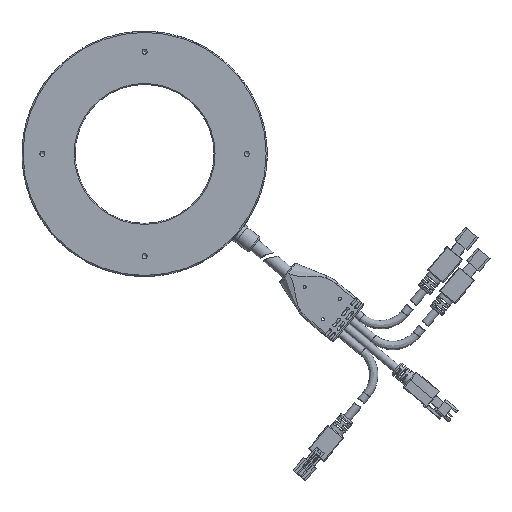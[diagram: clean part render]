
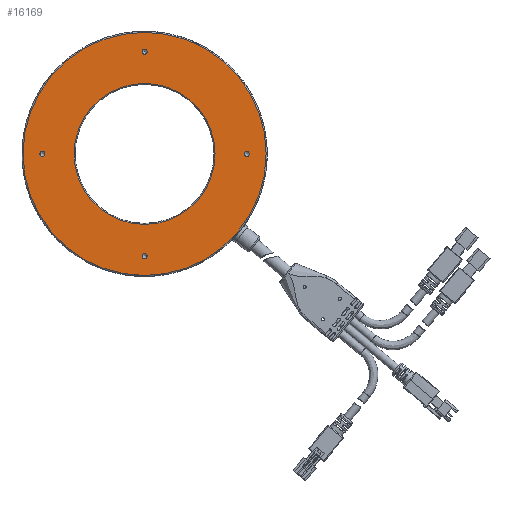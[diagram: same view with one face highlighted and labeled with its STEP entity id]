
A CAD part, front view. The second image highlights one B-rep face of the part: STEP entity #16169.
In plain terms, the highlighted planar face has unit normal (0, -1, 0).
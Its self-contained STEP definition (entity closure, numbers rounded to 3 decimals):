
#727 = DIRECTION ( 'NONE',  ( 0., -1., 0. ) ) ;
#2009 = EDGE_CURVE ( 'NONE', #54985, #54985, #57424, .T. ) ;
#4396 = DIRECTION ( 'NONE',  ( 0., -1., 0. ) ) ;
#4513 = CARTESIAN_POINT ( 'NONE',  ( 0., 0., 48.75 ) ) ;
#5760 = VERTEX_POINT ( 'NONE', #35848 ) ;
#6059 = CARTESIAN_POINT ( 'NONE',  ( 0., 0., -51.25 ) ) ;
#7832 = ORIENTED_EDGE ( 'NONE', *, *, #39731, .F. ) ;
#10649 = EDGE_CURVE ( 'NONE', #5760, #5760, #54673, .T. ) ;
#11118 = DIRECTION ( 'NONE',  ( 0., 0., -1. ) ) ;
#11240 = FACE_BOUND ( 'NONE', #39746, .T. ) ;
#12161 = CIRCLE ( 'NONE', #16451, 59.5 ) ;
#13613 = CIRCLE ( 'NONE', #44081, 1.25 ) ;
#13926 = ORIENTED_EDGE ( 'NONE', *, *, #10649, .T. ) ;
#14412 = DIRECTION ( 'NONE',  ( 0., 1., 0. ) ) ;
#14617 = DIRECTION ( 'NONE',  ( 0., 0., -1. ) ) ;
#16169 = ADVANCED_FACE ( 'NONE', ( #33406, #21596, #36170, #34750, #11240, #56999 ), #30041, .F. ) ;
#16451 = AXIS2_PLACEMENT_3D ( 'NONE', #27200, #727, #31637 ) ;
#18590 = DIRECTION ( 'NONE',  ( 0., -1., 0. ) ) ;
#18694 = EDGE_LOOP ( 'NONE', ( #25745 ) ) ;
#21596 = FACE_OUTER_BOUND ( 'NONE', #27586, .T. ) ;
#22145 = EDGE_LOOP ( 'NONE', ( #49273 ) ) ;
#22378 = EDGE_CURVE ( 'NONE', #31287, #31287, #12161, .T. ) ;
#22414 = ORIENTED_EDGE ( 'NONE', *, *, #2009, .F. ) ;
#23492 = CARTESIAN_POINT ( 'NONE',  ( -50., 0., -1.25 ) ) ;
#25745 = ORIENTED_EDGE ( 'NONE', *, *, #42593, .F. ) ;
#26570 = CARTESIAN_POINT ( 'NONE',  ( 0., 0., 59.5 ) ) ;
#27200 = CARTESIAN_POINT ( 'NONE',  ( 0., 0., 0. ) ) ;
#27586 = EDGE_LOOP ( 'NONE', ( #45742 ) ) ;
#28546 = VERTEX_POINT ( 'NONE', #23492 ) ;
#30041 = PLANE ( 'NONE',  #35197 ) ;
#30314 = AXIS2_PLACEMENT_3D ( 'NONE', #50651, #41681, #11118 ) ;
#31088 = DIRECTION ( 'NONE',  ( 0., 0., -1. ) ) ;
#31287 = VERTEX_POINT ( 'NONE', #26570 ) ;
#31637 = DIRECTION ( 'NONE',  ( 0., 0., 1. ) ) ;
#33406 = FACE_BOUND ( 'NONE', #54791, .T. ) ;
#34443 = CARTESIAN_POINT ( 'NONE',  ( 34., 0., 0. ) ) ;
#34750 = FACE_BOUND ( 'NONE', #22145, .T. ) ;
#34830 = DIRECTION ( 'NONE',  ( 0., 1., 0. ) ) ;
#35197 = AXIS2_PLACEMENT_3D ( 'NONE', #34443, #34830, #40653 ) ;
#35443 = VERTEX_POINT ( 'NONE', #6059 ) ;
#35848 = CARTESIAN_POINT ( 'NONE',  ( 0., 0., 34.5 ) ) ;
#36015 = CARTESIAN_POINT ( 'NONE',  ( 50., 0., 0. ) ) ;
#36107 = DIRECTION ( 'NONE',  ( 0., -1., 0. ) ) ;
#36170 = FACE_BOUND ( 'NONE', #18694, .T. ) ;
#36507 = CARTESIAN_POINT ( 'NONE',  ( 0., 0., -50. ) ) ;
#38713 = CIRCLE ( 'NONE', #51560, 1.25 ) ;
#39731 = EDGE_CURVE ( 'NONE', #54921, #54921, #43066, .T. ) ;
#39746 = EDGE_LOOP ( 'NONE', ( #22414 ) ) ;
#39762 = CARTESIAN_POINT ( 'NONE',  ( -50., 0., 0. ) ) ;
#40513 = CARTESIAN_POINT ( 'NONE',  ( 0., 0., 0. ) ) ;
#40653 = DIRECTION ( 'NONE',  ( 0., 0., 1. ) ) ;
#41023 = DIRECTION ( 'NONE',  ( 0., 0., -1. ) ) ;
#41681 = DIRECTION ( 'NONE',  ( 0., -1., 0. ) ) ;
#42593 = EDGE_CURVE ( 'NONE', #35443, #35443, #38713, .T. ) ;
#43066 = CIRCLE ( 'NONE', #53701, 1.25 ) ;
#44081 = AXIS2_PLACEMENT_3D ( 'NONE', #39762, #4396, #31088 ) ;
#44502 = EDGE_LOOP ( 'NONE', ( #7832 ) ) ;
#45031 = AXIS2_PLACEMENT_3D ( 'NONE', #40513, #14412, #45536 ) ;
#45536 = DIRECTION ( 'NONE',  ( 0., 0., 1. ) ) ;
#45742 = ORIENTED_EDGE ( 'NONE', *, *, #22378, .T. ) ;
#45865 = CARTESIAN_POINT ( 'NONE',  ( 50., 0., -1.25 ) ) ;
#49273 = ORIENTED_EDGE ( 'NONE', *, *, #54518, .F. ) ;
#50651 = CARTESIAN_POINT ( 'NONE',  ( 0., 0., 50. ) ) ;
#51560 = AXIS2_PLACEMENT_3D ( 'NONE', #36507, #36107, #14617 ) ;
#53701 = AXIS2_PLACEMENT_3D ( 'NONE', #36015, #18590, #41023 ) ;
#54518 = EDGE_CURVE ( 'NONE', #28546, #28546, #13613, .T. ) ;
#54673 = CIRCLE ( 'NONE', #45031, 34.5 ) ;
#54791 = EDGE_LOOP ( 'NONE', ( #13926 ) ) ;
#54921 = VERTEX_POINT ( 'NONE', #45865 ) ;
#54985 = VERTEX_POINT ( 'NONE', #4513 ) ;
#56999 = FACE_BOUND ( 'NONE', #44502, .T. ) ;
#57424 = CIRCLE ( 'NONE', #30314, 1.25 ) ;
